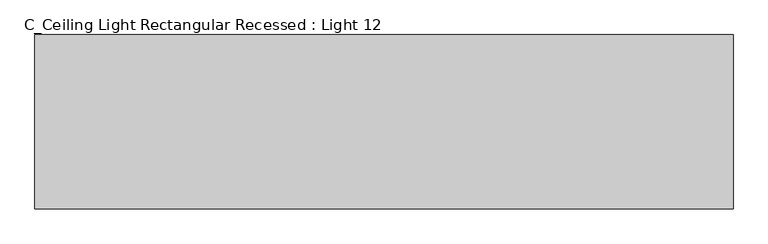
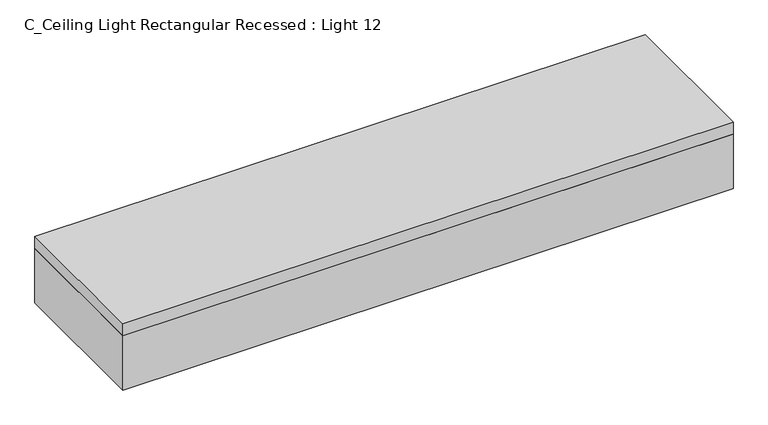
"""IFC4 building model written with IfcOpenShell, lengths in millimetres: light fixture geometry, C_Ceiling Light Rectangular Recessed : Light 12."""

from ifc_helpers import new_model, si_unit, frame, origin, place, context, project, spatial, polyline, outline, extrude, source, transform, mapped, element, save


def c_ceiling_light_rectangular_recessed_light_12_0c98196d(model_context):
    return source(origin(), model_context, "Body", "SweptSolid", [
        extrude(outline(polyline([(565.4964984, 67.5340679), (565.4964984, -186.4659321), (-602.9035016, -186.4659321), (-602.9035016, 67.5340679), (565.4964984, 67.5340679)])), frame((0.0, 0.0, 2438.4), z_axis=(0.0, 0.0, 1.0), x_axis=(1.0, 0.0, 0.0)), (0.0, 0.0, 1.0), 6.35),
        extrude(outline(polyline([(590.8964984, 92.9340679), (590.8964984, -211.8659321), (-628.3035016, -211.8659321), (-628.3035016, 92.9340679), (590.8964984, 92.9340679)]), holes=[polyline([(565.4964984, 67.5340679), (-602.9035016, 67.5340679), (-602.9035016, -186.4659321), (565.4964984, -186.4659321), (565.4964984, 67.5340679)])]), frame((0.0, 0.0, 2438.4), z_axis=(0.0, 0.0, 1.0), x_axis=(1.0, 0.0, 0.0)), (0.0, 0.0, 1.0), 114.3),
        extrude(outline(polyline([(590.8964984, 92.9340679), (590.8964984, -211.8659321), (-628.3035016, -211.8659321), (-628.3035016, 92.9340679), (590.8964984, 92.9340679)])), frame((0.0, 0.0, 2552.7), z_axis=(0.0, 0.0, 1.0), x_axis=(1.0, 0.0, 0.0)), (0.0, 0.0, 1.0), 25.4),
    ])


if __name__ == "__main__":
    model = new_model("IFC4")
    model_context = context("Model", 3, world=origin())
    ifc_project = project(units=[si_unit("LENGTHUNIT", "METRE", prefix="MILLI")], contexts=[model_context])
    site = spatial("IfcSite", under=ifc_project)
    building = spatial("IfcBuilding", under=site)
    placement = place(None, origin())
    c_ceiling_light_rectangular_recessed_light_12_shape = c_ceiling_light_rectangular_recessed_light_12_0c98196d(model_context)
    element("IfcLightFixture", 1, ObjectType="C_Ceiling Light Rectangular Recessed : Light 12", at=placement, inside=building, context=model_context, shape_type="MappedRepresentation", body=[
        mapped(c_ceiling_light_rectangular_recessed_light_12_shape, transform((0.0, 0.0, 0.0), x_axis=(1.0, 0.0, 0.0), y_axis=(0.0, 1.0, 0.0), z_axis=(0.0, 0.0, 1.0))),
    ])
    save(model, "model.ifc")
